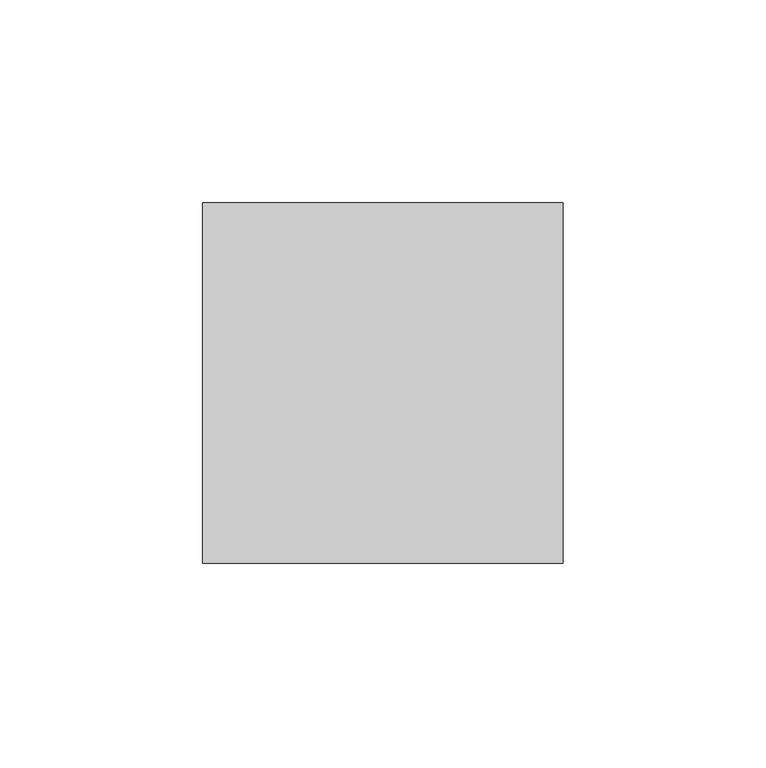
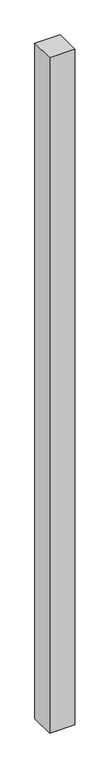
"""IFC4 building model written with IfcOpenShell, lengths in millimetres: column geometry, Trus Joist - TimberStrand LSL - Post Column : TimberStrand® 1.3E – 3 1/2 x 3 1/2”."""

from ifc_helpers import new_model, si_unit, frame, origin, place, context, project, spatial, polyline, outline, extrude, source, transform, mapped, element, save


def column_7f5f3ff1(model_context):
    return source(origin(), model_context, "Body", "SweptSolid", [
        extrude(outline(polyline([(44.45, 44.45), (44.45, -44.45), (-44.45, -44.45), (-44.45, 44.45), (44.45, 44.45)])), frame((0.0, 0.0, -63.5), z_axis=(0.0, 0.0, 1.0), x_axis=(1.0, 0.0, 0.0)), (0.0, 0.0, 1.0), 2508.25),
    ])


if __name__ == "__main__":
    model = new_model("IFC4")
    model_context = context("Model", 3, world=origin())
    ifc_project = project(units=[si_unit("LENGTHUNIT", "METRE", prefix="MILLI")], contexts=[model_context])
    site = spatial("IfcSite", under=ifc_project)
    building = spatial("IfcBuilding", under=site)
    placement = place(None, origin())
    column_shape = column_7f5f3ff1(model_context)
    element("IfcColumn", 1, ObjectType="Trus Joist - TimberStrand LSL - Post Column : TimberStrand® 1.3E – 3 1/2 x 3 1/2”", at=placement, inside=building, context=model_context, shape_type="MappedRepresentation", body=[
        mapped(column_shape, transform((0.0, 0.0, 0.0), x_axis=(1.0, 0.0, 0.0), y_axis=(0.0, 1.0, 0.0), z_axis=(0.0, 0.0, 1.0))),
    ])
    save(model, "model.ifc")
